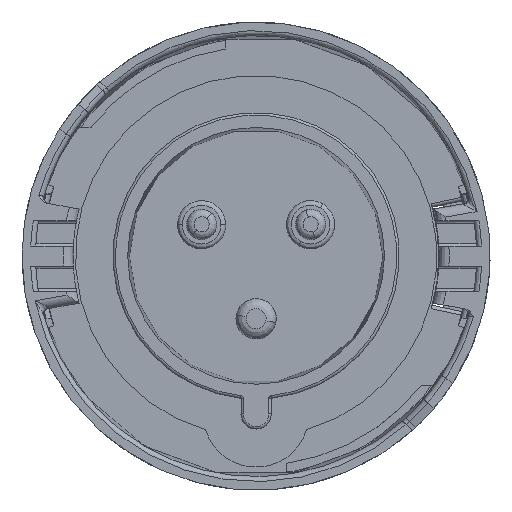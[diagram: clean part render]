
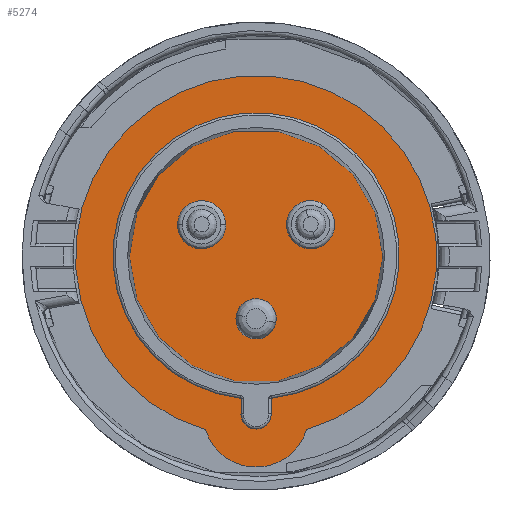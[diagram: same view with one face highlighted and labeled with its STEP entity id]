
A CAD part, top view. The second image highlights one B-rep face of the part: STEP entity #5274.
In plain terms, the highlighted planar face has unit normal (0, 0, 1).
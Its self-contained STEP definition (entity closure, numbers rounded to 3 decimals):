
#1199=PLANE('',#16753);
#5274=ADVANCED_FACE('',(#5810),#1199,.T.);
#5810=FACE_OUTER_BOUND('',#6352,.T.);
#6352=EDGE_LOOP('',(#10888,#10889));
#7793=CIRCLE('',#16751,10.5);
#7794=CIRCLE('',#16752,35.9);
#10888=ORIENTED_EDGE('',*,*,#14721,.T.);
#10889=ORIENTED_EDGE('',*,*,#14722,.T.);
#12590=VERTEX_POINT('',#43928);
#12591=VERTEX_POINT('',#43929);
#14721=EDGE_CURVE('',#12590,#12591,#7793,.T.);
#14722=EDGE_CURVE('',#12591,#12590,#7794,.T.);
#16751=AXIS2_PLACEMENT_3D('',#43927,#19275,#19276);
#16752=AXIS2_PLACEMENT_3D('',#43930,#19277,#19278);
#16753=AXIS2_PLACEMENT_3D('',#43931,#19279,#19280);
#19275=DIRECTION('',(0.,0.,1.));
#19276=DIRECTION('',(1.,0.,0.));
#19277=DIRECTION('',(0.,0.,1.));
#19278=DIRECTION('',(1.,0.,0.));
#19279=DIRECTION('',(0.,0.,1.));
#19280=DIRECTION('',(-1.,0.,0.));
#43927=CARTESIAN_POINT('',(0.,-31.4,-34.5));
#43928=CARTESIAN_POINT('',(-10.042,-34.467,-34.5));
#43929=CARTESIAN_POINT('',(10.042,-34.467,-34.5));
#43930=CARTESIAN_POINT('',(0.,0.,-34.5));
#43931=CARTESIAN_POINT('',(-43.08,-49.68,-34.5));
